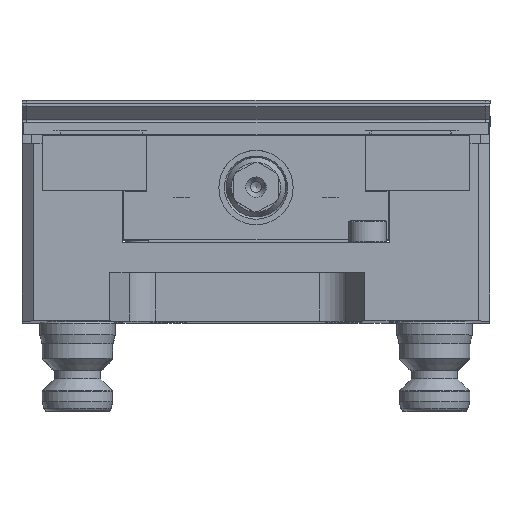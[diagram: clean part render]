
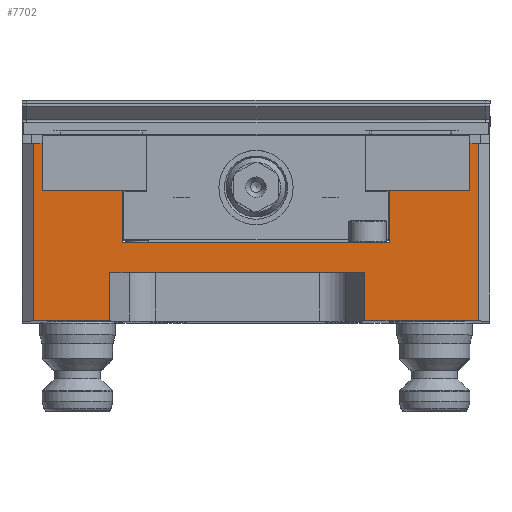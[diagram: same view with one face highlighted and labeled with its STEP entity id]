
A CAD part, top view. The second image highlights one B-rep face of the part: STEP entity #7702.
In plain terms, the highlighted planar face has unit normal (0, 0, 1).
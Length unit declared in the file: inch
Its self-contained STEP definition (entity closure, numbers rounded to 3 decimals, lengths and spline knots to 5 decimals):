
#30 = CARTESIAN_POINT ( 'NONE',  ( 2.26417, 1.37795, 6.77953 ) ) ;
#49 = EDGE_CURVE ( 'NONE', #15606, #2546, #9990, .T. ) ;
#290 = ORIENTED_EDGE ( 'NONE', *, *, #1497, .T. ) ;
#422 = CARTESIAN_POINT ( 'NONE',  ( -2.35689, 1.875, 6.77953 ) ) ;
#511 = VERTEX_POINT ( 'NONE', #10395 ) ;
#533 = LINE ( 'NONE', #13725, #1982 ) ;
#980 = CARTESIAN_POINT ( 'NONE',  ( -1.54623, 0.51181, 6.77953 ) ) ;
#1062 = CARTESIAN_POINT ( 'NONE',  ( 2.26417, 1.37795, 6.77953 ) ) ;
#1143 = VERTEX_POINT ( 'NONE', #20632 ) ;
#1349 = EDGE_CURVE ( 'NONE', #19448, #1143, #6564, .T. ) ;
#1357 = EDGE_CURVE ( 'NONE', #11457, #15606, #7934, .T. ) ;
#1438 = CARTESIAN_POINT ( 'NONE',  ( -2.26417, 1.37795, 6.77953 ) ) ;
#1484 = VECTOR ( 'NONE', #19456, 39.37008 ) ;
#1497 = EDGE_CURVE ( 'NONE', #19598, #19448, #20384, .T. ) ;
#1715 = DIRECTION ( 'NONE',  ( 1., 0., 0. ) ) ;
#1743 = DIRECTION ( 'NONE',  ( 0., 1., 0. ) ) ;
#1982 = VECTOR ( 'NONE', #20208, 39.37008 ) ;
#2122 = CARTESIAN_POINT ( 'NONE',  ( -2.26417, 1.875, 6.77953 ) ) ;
#2546 = VERTEX_POINT ( 'NONE', #422 ) ;
#2617 = EDGE_CURVE ( 'NONE', #13069, #14893, #6461, .T. ) ;
#2664 = ORIENTED_EDGE ( 'NONE', *, *, #6145, .T. ) ;
#3432 = CARTESIAN_POINT ( 'NONE',  ( -1.41732, 1.37795, 6.77953 ) ) ;
#3588 = VECTOR ( 'NONE', #15456, 39.37008 ) ;
#3661 = VECTOR ( 'NONE', #6284, 39.37008 ) ;
#3697 = EDGE_CURVE ( 'NONE', #19871, #6836, #9644, .T. ) ;
#4003 = EDGE_CURVE ( 'NONE', #6836, #7884, #14028, .T. ) ;
#4207 = LINE ( 'NONE', #17083, #4647 ) ;
#4345 = DIRECTION ( 'NONE',  ( 0., -1., 0. ) ) ;
#4384 = DIRECTION ( 'NONE',  ( -1., 0., 0. ) ) ;
#4393 = VECTOR ( 'NONE', #15540, 39.37008 ) ;
#4647 = VECTOR ( 'NONE', #5797, 39.37008 ) ;
#4688 = VECTOR ( 'NONE', #16408, 39.37008 ) ;
#5370 = DIRECTION ( 'NONE',  ( -1., 0., 0. ) ) ;
#5637 = EDGE_CURVE ( 'NONE', #19598, #9078, #6928, .T. ) ;
#5690 = VECTOR ( 'NONE', #1743, 39.37008 ) ;
#5754 = LINE ( 'NONE', #18316, #3588 ) ;
#5797 = DIRECTION ( 'NONE',  ( -1., 0., 0. ) ) ;
#6145 = EDGE_CURVE ( 'NONE', #511, #12297, #9851, .T. ) ;
#6152 = EDGE_CURVE ( 'NONE', #12778, #14696, #11762, .T. ) ;
#6196 = VECTOR ( 'NONE', #12105, 39.37008 ) ;
#6227 = DIRECTION ( 'NONE',  ( 0., -1., 0. ) ) ;
#6284 = DIRECTION ( 'NONE',  ( -1., 0., 0. ) ) ;
#6400 = ORIENTED_EDGE ( 'NONE', *, *, #5637, .F. ) ;
#6461 = LINE ( 'NONE', #6565, #1484 ) ;
#6564 = LINE ( 'NONE', #18058, #14945 ) ;
#6565 = CARTESIAN_POINT ( 'NONE',  ( 1.41732, 1.37795, 6.77953 ) ) ;
#6703 = EDGE_LOOP ( 'NONE', ( #13886, #6400, #290, #17225, #13615, #9806, #10213, #10509, #19443, #20352, #2664, #16471, #6915, #11001, #14987, #10769 ) ) ;
#6836 = VERTEX_POINT ( 'NONE', #12336 ) ;
#6915 = ORIENTED_EDGE ( 'NONE', *, *, #1357, .T. ) ;
#6928 = LINE ( 'NONE', #13343, #15076 ) ;
#6991 = PLANE ( 'NONE',  #11857 ) ;
#7103 = CARTESIAN_POINT ( 'NONE',  ( 0., 0., 6.77953 ) ) ;
#7310 = FACE_OUTER_BOUND ( 'NONE', #6703, .T. ) ;
#7665 = CARTESIAN_POINT ( 'NONE',  ( -1.54623, 0.51181, 6.77953 ) ) ;
#7702 = ADVANCED_FACE ( 'NONE', ( #7310 ), #6991, .T. ) ;
#7884 = VERTEX_POINT ( 'NONE', #1062 ) ;
#7934 = LINE ( 'NONE', #12771, #12237 ) ;
#8710 = CARTESIAN_POINT ( 'NONE',  ( -1.54623, 0., 6.77953 ) ) ;
#9078 = VERTEX_POINT ( 'NONE', #7665 ) ;
#9110 = LINE ( 'NONE', #18853, #14710 ) ;
#9644 = LINE ( 'NONE', #17587, #3661 ) ;
#9806 = ORIENTED_EDGE ( 'NONE', *, *, #3697, .T. ) ;
#9851 = LINE ( 'NONE', #3432, #5690 ) ;
#9990 = LINE ( 'NONE', #18344, #6196 ) ;
#10059 = CARTESIAN_POINT ( 'NONE',  ( 2.475, 0., 6.77953 ) ) ;
#10213 = ORIENTED_EDGE ( 'NONE', *, *, #4003, .T. ) ;
#10395 = CARTESIAN_POINT ( 'NONE',  ( -1.41732, 0.82677, 6.77953 ) ) ;
#10509 = ORIENTED_EDGE ( 'NONE', *, *, #15147, .T. ) ;
#10769 = ORIENTED_EDGE ( 'NONE', *, *, #6152, .T. ) ;
#11001 = ORIENTED_EDGE ( 'NONE', *, *, #49, .T. ) ;
#11457 = VERTEX_POINT ( 'NONE', #1438 ) ;
#11762 = LINE ( 'NONE', #10059, #4688 ) ;
#11857 = AXIS2_PLACEMENT_3D ( 'NONE', #7103, #18605, #13820 ) ;
#11982 = EDGE_CURVE ( 'NONE', #12297, #11457, #9110, .T. ) ;
#12105 = DIRECTION ( 'NONE',  ( -1., 0., 0. ) ) ;
#12237 = VECTOR ( 'NONE', #17857, 39.37008 ) ;
#12297 = VERTEX_POINT ( 'NONE', #18393 ) ;
#12336 = CARTESIAN_POINT ( 'NONE',  ( 2.26417, 1.875, 6.77953 ) ) ;
#12447 = CARTESIAN_POINT ( 'NONE',  ( 1.15253, 0.51181, 6.77953 ) ) ;
#12472 = EDGE_CURVE ( 'NONE', #14893, #511, #4207, .T. ) ;
#12771 = CARTESIAN_POINT ( 'NONE',  ( -2.26417, 1.875, 6.77953 ) ) ;
#12778 = VERTEX_POINT ( 'NONE', #14928 ) ;
#12815 = EDGE_CURVE ( 'NONE', #2546, #12778, #5754, .T. ) ;
#13069 = VERTEX_POINT ( 'NONE', #17356 ) ;
#13343 = CARTESIAN_POINT ( 'NONE',  ( -1.54623, 0.51181, 6.77953 ) ) ;
#13588 = VECTOR ( 'NONE', #4345, 39.37008 ) ;
#13615 = ORIENTED_EDGE ( 'NONE', *, *, #20469, .T. ) ;
#13725 = CARTESIAN_POINT ( 'NONE',  ( 2.35689, 1.875, 6.77953 ) ) ;
#13820 = DIRECTION ( 'NONE',  ( 1., 0., 0. ) ) ;
#13886 = ORIENTED_EDGE ( 'NONE', *, *, #15454, .F. ) ;
#14028 = LINE ( 'NONE', #15842, #19181 ) ;
#14385 = DIRECTION ( 'NONE',  ( -1., 0., 0. ) ) ;
#14696 = VERTEX_POINT ( 'NONE', #8710 ) ;
#14710 = VECTOR ( 'NONE', #4384, 39.37008 ) ;
#14893 = VERTEX_POINT ( 'NONE', #15568 ) ;
#14928 = CARTESIAN_POINT ( 'NONE',  ( -2.35689, 0., 6.77953 ) ) ;
#14945 = VECTOR ( 'NONE', #1715, 39.37008 ) ;
#14987 = ORIENTED_EDGE ( 'NONE', *, *, #12815, .T. ) ;
#15076 = VECTOR ( 'NONE', #5370, 39.37008 ) ;
#15147 = EDGE_CURVE ( 'NONE', #7884, #13069, #17361, .T. ) ;
#15439 = LINE ( 'NONE', #980, #4393 ) ;
#15454 = EDGE_CURVE ( 'NONE', #9078, #14696, #15439, .T. ) ;
#15456 = DIRECTION ( 'NONE',  ( 0., -1., 0. ) ) ;
#15540 = DIRECTION ( 'NONE',  ( 0., -1., 0. ) ) ;
#15568 = CARTESIAN_POINT ( 'NONE',  ( 1.41732, 0.82677, 6.77953 ) ) ;
#15606 = VERTEX_POINT ( 'NONE', #2122 ) ;
#15812 = VECTOR ( 'NONE', #14385, 39.37008 ) ;
#15842 = CARTESIAN_POINT ( 'NONE',  ( 2.26417, 1.875, 6.77953 ) ) ;
#15865 = CARTESIAN_POINT ( 'NONE',  ( 2.35689, 1.875, 6.77953 ) ) ;
#16199 = CARTESIAN_POINT ( 'NONE',  ( 1.15253, 0.51181, 6.77953 ) ) ;
#16408 = DIRECTION ( 'NONE',  ( 1., 0., 0. ) ) ;
#16471 = ORIENTED_EDGE ( 'NONE', *, *, #11982, .T. ) ;
#17083 = CARTESIAN_POINT ( 'NONE',  ( -1.41732, 0.82677, 6.77953 ) ) ;
#17225 = ORIENTED_EDGE ( 'NONE', *, *, #1349, .T. ) ;
#17356 = CARTESIAN_POINT ( 'NONE',  ( 1.41732, 1.37795, 6.77953 ) ) ;
#17361 = LINE ( 'NONE', #30, #15812 ) ;
#17587 = CARTESIAN_POINT ( 'NONE',  ( 2.475, 1.875, 6.77953 ) ) ;
#17857 = DIRECTION ( 'NONE',  ( 0., 1., 0. ) ) ;
#18058 = CARTESIAN_POINT ( 'NONE',  ( 2.475, 0., 6.77953 ) ) ;
#18316 = CARTESIAN_POINT ( 'NONE',  ( -2.35689, 0., 6.77953 ) ) ;
#18344 = CARTESIAN_POINT ( 'NONE',  ( -2.475, 1.875, 6.77953 ) ) ;
#18393 = CARTESIAN_POINT ( 'NONE',  ( -1.41732, 1.37795, 6.77953 ) ) ;
#18605 = DIRECTION ( 'NONE',  ( 0., 0., 1. ) ) ;
#18853 = CARTESIAN_POINT ( 'NONE',  ( -2.26417, 1.37795, 6.77953 ) ) ;
#19181 = VECTOR ( 'NONE', #6227, 39.37008 ) ;
#19443 = ORIENTED_EDGE ( 'NONE', *, *, #2617, .T. ) ;
#19448 = VERTEX_POINT ( 'NONE', #20755 ) ;
#19456 = DIRECTION ( 'NONE',  ( 0., -1., 0. ) ) ;
#19598 = VERTEX_POINT ( 'NONE', #16199 ) ;
#19871 = VERTEX_POINT ( 'NONE', #15865 ) ;
#20208 = DIRECTION ( 'NONE',  ( 0., 1., 0. ) ) ;
#20352 = ORIENTED_EDGE ( 'NONE', *, *, #12472, .T. ) ;
#20384 = LINE ( 'NONE', #12447, #13588 ) ;
#20469 = EDGE_CURVE ( 'NONE', #1143, #19871, #533, .T. ) ;
#20632 = CARTESIAN_POINT ( 'NONE',  ( 2.35689, 0., 6.77953 ) ) ;
#20755 = CARTESIAN_POINT ( 'NONE',  ( 1.15253, 0., 6.77953 ) ) ;
